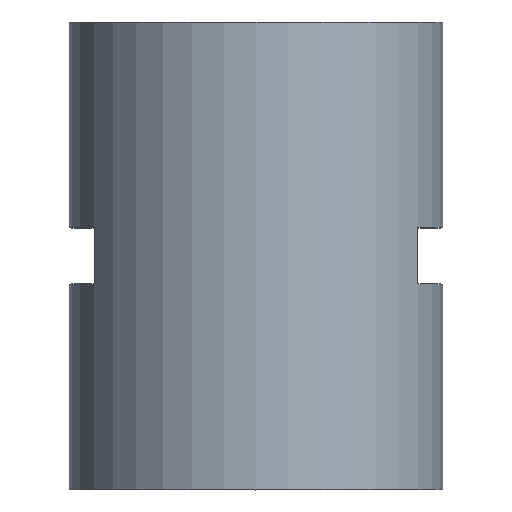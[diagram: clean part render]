
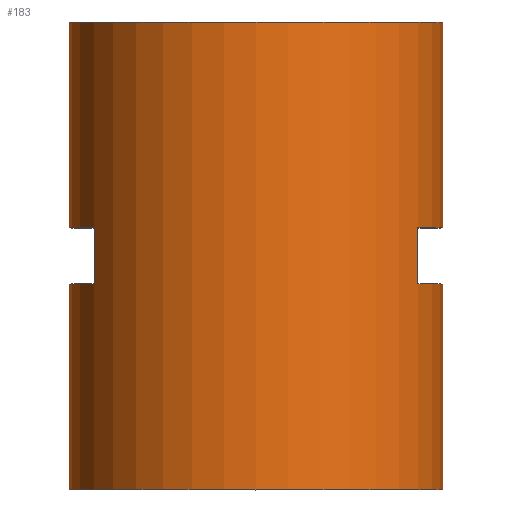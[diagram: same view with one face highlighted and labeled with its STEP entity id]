
A CAD part, top view. The second image highlights one B-rep face of the part: STEP entity #183.
In plain terms, the highlighted cylindrical face has radius 20 mm (diameter 40 mm), a full revolution.
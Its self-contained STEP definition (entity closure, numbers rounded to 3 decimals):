
#17=CYLINDRICAL_SURFACE('',#217,20.);
#21=FACE_BOUND('',#55,.T.);
#23=CIRCLE('',#201,20.);
#24=CIRCLE('',#202,20.);
#25=CIRCLE('',#203,20.);
#27=CIRCLE('',#206,20.);
#28=CIRCLE('',#207,20.);
#29=CIRCLE('',#208,20.);
#32=CIRCLE('',#214,20.);
#34=CIRCLE('',#218,20.);
#42=FACE_OUTER_BOUND('',#54,.T.);
#54=EDGE_LOOP('',(#152,#153,#154,#155,#156,#157,#158,#159,#160,#161,#162,
#163));
#55=EDGE_LOOP('',(#164,#165,#166,#167));
#58=LINE('',#280,#70);
#60=LINE('',#284,#72);
#64=LINE('',#307,#76);
#65=LINE('',#308,#77);
#68=LINE('',#323,#80);
#69=LINE('',#324,#81);
#70=VECTOR('',#224,10.);
#72=VECTOR('',#226,10.);
#76=VECTOR('',#252,10.);
#77=VECTOR('',#253,10.);
#80=VECTOR('',#272,20.);
#81=VECTOR('',#273,20.);
#82=VERTEX_POINT('',#278);
#83=VERTEX_POINT('',#279);
#84=VERTEX_POINT('',#281);
#85=VERTEX_POINT('',#283);
#86=VERTEX_POINT('',#287);
#87=VERTEX_POINT('',#289);
#88=VERTEX_POINT('',#291);
#90=VERTEX_POINT('',#297);
#91=VERTEX_POINT('',#299);
#92=VERTEX_POINT('',#301);
#95=VERTEX_POINT('',#314);
#97=VERTEX_POINT('',#321);
#98=EDGE_CURVE('',#82,#83,#58,.T.);
#100=EDGE_CURVE('',#85,#84,#60,.T.);
#102=EDGE_CURVE('',#86,#82,#23,.T.);
#104=EDGE_CURVE('',#88,#87,#24,.T.);
#105=EDGE_CURVE('',#84,#88,#25,.T.);
#107=EDGE_CURVE('',#83,#90,#27,.T.);
#108=EDGE_CURVE('',#91,#85,#28,.T.);
#109=EDGE_CURVE('',#92,#91,#29,.T.);
#112=EDGE_CURVE('',#90,#86,#64,.T.);
#113=EDGE_CURVE('',#87,#92,#65,.T.);
#116=EDGE_CURVE('',#95,#95,#32,.T.);
#119=EDGE_CURVE('',#97,#97,#34,.T.);
#120=EDGE_CURVE('',#97,#91,#68,.T.);
#121=EDGE_CURVE('',#88,#95,#69,.T.);
#152=ORIENTED_EDGE('',*,*,#119,.F.);
#153=ORIENTED_EDGE('',*,*,#120,.T.);
#154=ORIENTED_EDGE('',*,*,#108,.T.);
#155=ORIENTED_EDGE('',*,*,#100,.T.);
#156=ORIENTED_EDGE('',*,*,#105,.T.);
#157=ORIENTED_EDGE('',*,*,#121,.T.);
#158=ORIENTED_EDGE('',*,*,#116,.F.);
#159=ORIENTED_EDGE('',*,*,#121,.F.);
#160=ORIENTED_EDGE('',*,*,#104,.T.);
#161=ORIENTED_EDGE('',*,*,#113,.T.);
#162=ORIENTED_EDGE('',*,*,#109,.T.);
#163=ORIENTED_EDGE('',*,*,#120,.F.);
#164=ORIENTED_EDGE('',*,*,#98,.T.);
#165=ORIENTED_EDGE('',*,*,#107,.T.);
#166=ORIENTED_EDGE('',*,*,#112,.T.);
#167=ORIENTED_EDGE('',*,*,#102,.T.);
#183=ADVANCED_FACE('',(#42,#21),#17,.T.);
#201=AXIS2_PLACEMENT_3D('',#288,#230,#231);
#202=AXIS2_PLACEMENT_3D('',#292,#233,#234);
#203=AXIS2_PLACEMENT_3D('',#293,#235,#236);
#206=AXIS2_PLACEMENT_3D('',#298,#241,#242);
#207=AXIS2_PLACEMENT_3D('',#300,#243,#244);
#208=AXIS2_PLACEMENT_3D('',#302,#245,#246);
#214=AXIS2_PLACEMENT_3D('',#315,#261,#262);
#217=AXIS2_PLACEMENT_3D('',#320,#268,#269);
#218=AXIS2_PLACEMENT_3D('',#322,#270,#271);
#224=DIRECTION('',(0.,1.,0.));
#226=DIRECTION('',(0.,-1.,0.));
#230=DIRECTION('center_axis',(0.,-1.,0.));
#231=DIRECTION('ref_axis',(1.,0.,0.));
#233=DIRECTION('center_axis',(0.,-1.,0.));
#234=DIRECTION('ref_axis',(1.,0.,0.));
#235=DIRECTION('center_axis',(0.,-1.,0.));
#236=DIRECTION('ref_axis',(1.,0.,0.));
#241=DIRECTION('center_axis',(0.,1.,0.));
#242=DIRECTION('ref_axis',(1.,0.,0.));
#243=DIRECTION('center_axis',(0.,1.,0.));
#244=DIRECTION('ref_axis',(1.,0.,0.));
#245=DIRECTION('center_axis',(0.,1.,0.));
#246=DIRECTION('ref_axis',(1.,0.,0.));
#252=DIRECTION('',(0.,-1.,0.));
#253=DIRECTION('',(0.,1.,0.));
#261=DIRECTION('center_axis',(0.,-1.,0.));
#262=DIRECTION('ref_axis',(1.,0.,0.));
#268=DIRECTION('center_axis',(0.,1.,0.));
#269=DIRECTION('ref_axis',(1.,0.,0.));
#270=DIRECTION('center_axis',(0.,1.,0.));
#271=DIRECTION('ref_axis',(1.,0.,0.));
#272=DIRECTION('',(0.,-1.,0.));
#273=DIRECTION('',(0.,-1.,0.));
#278=CARTESIAN_POINT('',(17.321,-3.,10.));
#279=CARTESIAN_POINT('',(17.321,3.,10.));
#280=CARTESIAN_POINT('',(17.321,0.,10.));
#281=CARTESIAN_POINT('',(-17.321,-3.,10.));
#283=CARTESIAN_POINT('',(-17.321,3.,10.));
#284=CARTESIAN_POINT('',(-17.321,0.,10.));
#287=CARTESIAN_POINT('',(17.321,-3.,-10.));
#288=CARTESIAN_POINT('Origin',(0.,-3.,0.));
#289=CARTESIAN_POINT('',(-17.321,-3.,-10.));
#291=CARTESIAN_POINT('',(-20.,-3.,0.));
#292=CARTESIAN_POINT('Origin',(0.,-3.,0.));
#293=CARTESIAN_POINT('Origin',(0.,-3.,0.));
#297=CARTESIAN_POINT('',(17.321,3.,-10.));
#298=CARTESIAN_POINT('Origin',(0.,3.,0.));
#299=CARTESIAN_POINT('',(-20.,3.,0.));
#300=CARTESIAN_POINT('Origin',(0.,3.,0.));
#301=CARTESIAN_POINT('',(-17.321,3.,-10.));
#302=CARTESIAN_POINT('Origin',(0.,3.,0.));
#307=CARTESIAN_POINT('',(17.321,0.,-10.));
#308=CARTESIAN_POINT('',(-17.321,0.,-10.));
#314=CARTESIAN_POINT('',(-20.,-25.,0.));
#315=CARTESIAN_POINT('Origin',(0.,-25.,0.));
#320=CARTESIAN_POINT('Origin',(0.,0.,0.));
#321=CARTESIAN_POINT('',(-20.,25.,0.));
#322=CARTESIAN_POINT('Origin',(0.,25.,0.));
#323=CARTESIAN_POINT('',(-20.,0.,0.));
#324=CARTESIAN_POINT('',(-20.,0.,0.));
